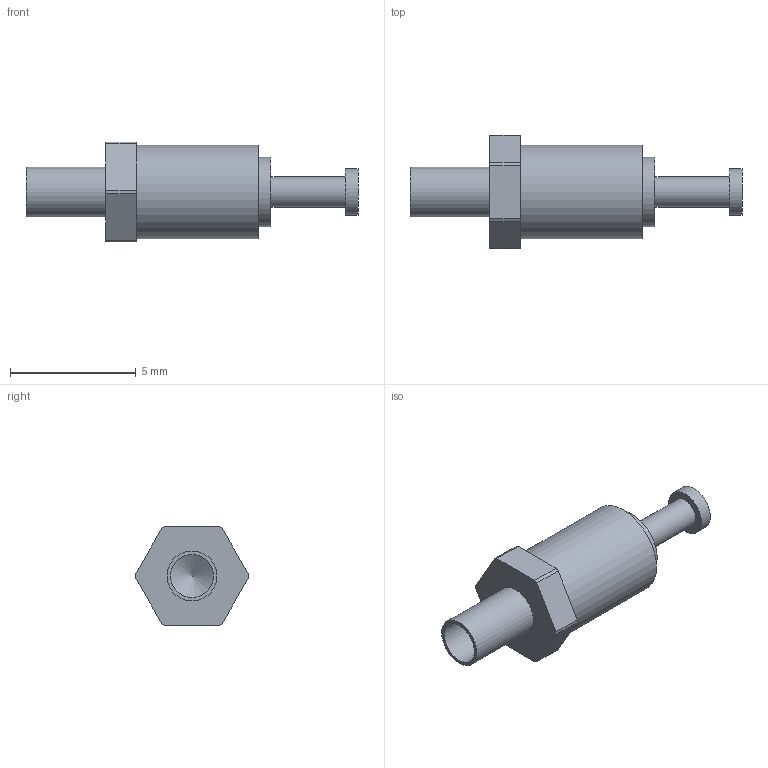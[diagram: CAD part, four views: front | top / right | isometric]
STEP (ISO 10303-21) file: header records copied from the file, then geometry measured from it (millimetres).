
FILE_DESCRIPTION(/* description */ (''),/* implementation_level */ '2;1');
FILE_NAME(/* name */ '\\Snap1\dwgs\Customer 3D Models\572\572-4901-02 Customer model.stp',/* time_stamp */ '2017-01-12T15:43:39+00:00',/* author */ ('paulk'),/* organization */ (''),/* preprocessor_version */ 'ST-DEVELOPER v15.2',/* originating_system */ 'Autodesk Inventor 2014',/* authorisation */ '');
FILE_SCHEMA (('CONFIG_CONTROL_DESIGN'));
Length unit declared in the file: millimetre
Products named in the file (1): 572-4901-02 Customer model
Bounding box: 13.18 x 4.5 x 3.96 mm (x, y, z)
Volume: 82.1 mm3; surface area: 149.9 mm2
Topology: 1 solids, 1 shells, 26 faces, 56 edges, 37 vertices
Faces by surface type: plane 13, cylinder 12, cone 1
Full cylindrical faces by diameter (mm): 1.194 x1, 1.702 x1, 1.829 x1, 1.981 x1, 2.769 x1, 3.708 x1
Entity records: 747 total; most frequent: DIRECTION 126, CARTESIAN_POINT 111, ORIENTED_EDGE 96, AXIS2_PLACEMENT_3D 51, EDGE_CURVE 48, EDGE_LOOP 38, VERTEX_POINT 36, STYLED_ITEM 27
